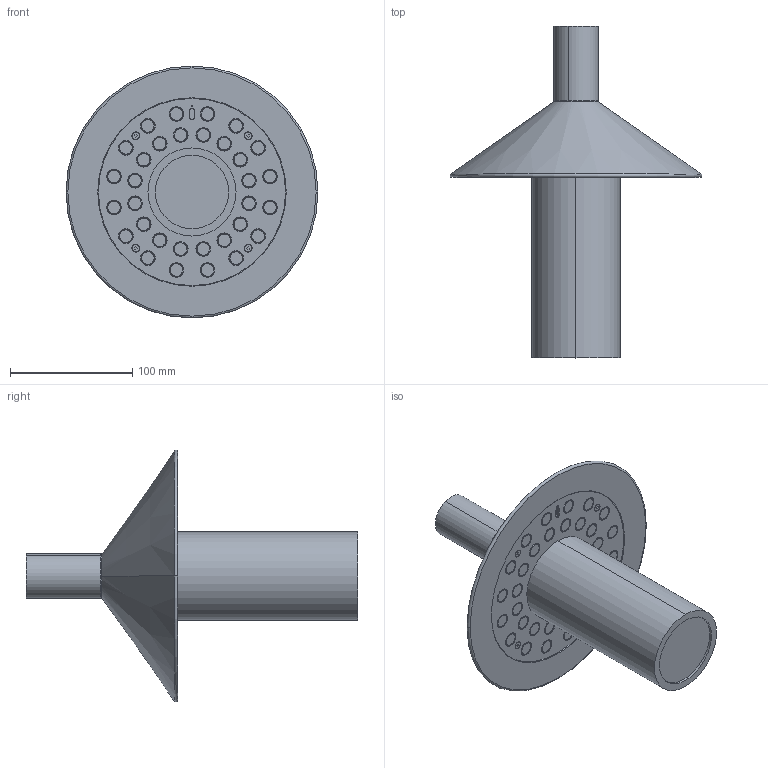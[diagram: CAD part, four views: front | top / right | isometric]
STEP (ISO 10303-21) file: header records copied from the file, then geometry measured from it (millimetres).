
FILE_DESCRIPTION (( 'STEP AP203' ), '1' );
FILE_NAME ('Model Pepa A03-T12.STEP', '2024-05-28T10:18:49', ( '' ), ( '' ), 'SwSTEP 2.0', 'SolidWorks 2023', '' );
FILE_SCHEMA (( 'CONFIG_CONTROL_DESIGN' ));
Length unit declared in the file: millimetre
Products named in the file (7): 3D archATC-A03T0-00200_Default<A macchina>; 3D archVite a Testa Svasata Piana Cava Esagonale UNI-5933_VITE M3X18 TSPCE UNI-5933; 3D archATC-A03T0-00100_Default<A macchina>; 3D archATC-A03T0-00300_rev_01; Model Pepa A03-T12; 3D archATC-A03T0-00000_Default<A macchina>; 3D archATC-A03T0-00700
Assembly tree (9 placements, depth 2):
  Model Pepa A03-T12
    3D archVite a Testa Svasata Piana Cava Esagonale UNI-5933_VITE M3X18 TSPCE UNI-5933  x4
    3D archATC-A03T0-00000_Default<A macchina>
    3D archATC-A03T0-00100_Default<A macchina>
    3D archATC-A03T0-00200_Default<A macchina>
    3D archATC-A03T0-00300_rev_01
    3D archATC-A03T0-00700
Bounding box: 206 x 271.3 x 206 mm (x, y, z)
Volume: 1403938.7 mm3; surface area: 198588.7 mm2
Topology: 9 solids, 9 shells, 587 faces, 1463 edges, 967 vertices
Faces by surface type: cone 164, bspline 164, plane 127, cylinder 122, torus 10
Entity records: 28824 total; most frequent: CARTESIAN_POINT 15528, ORIENTED_EDGE 2682, DIRECTION 2560, EDGE_CURVE 1341, AXIS2_PLACEMENT_3D 1123, VERTEX_POINT 895, CIRCLE 745, EDGE_LOOP 696
